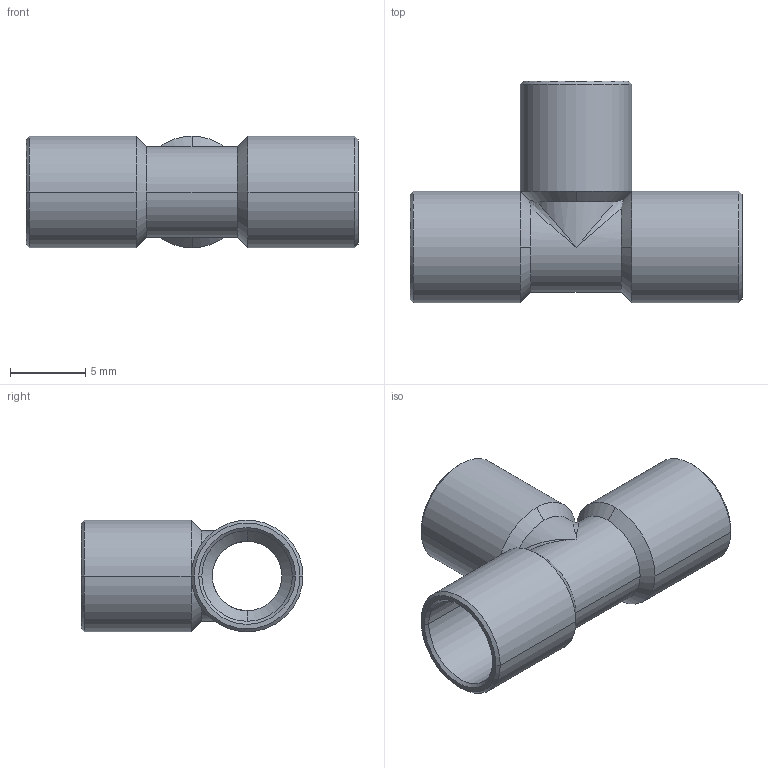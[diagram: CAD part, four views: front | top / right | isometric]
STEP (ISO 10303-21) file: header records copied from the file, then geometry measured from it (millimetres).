
FILE_DESCRIPTION((''),'2;1');
FILE_NAME('P:\Bouwmaten\z-maattekeningen 3D\5000\5130\d\51306.stp','2005-10-19T08:40:39',('Kris'),(''),'Autodesk Inventor 8','Autodesk Inventor 8','');
FILE_SCHEMA(('AUTOMOTIVE_DESIGN { 1 0 10303 214 1 1 1 1 }'));
Length unit declared in the file: millimetre
Products named in the file (1): 51306
Bounding box: 22 x 14.7 x 7.4 mm (x, y, z)
Volume: 421.8 mm3; surface area: 1240.3 mm2
Topology: 1 solids, 1 shells, 51 faces, 142 edges, 84 vertices
Faces by surface type: cone 24, cylinder 20, bspline 4, plane 3
Entity records: 2095 total; most frequent: CARTESIAN_POINT 754, DIRECTION 310, ORIENTED_EDGE 268, AXIS2_PLACEMENT_3D 136, EDGE_CURVE 134, VERTEX_POINT 84, CIRCLE 72, EDGE_LOOP 54
